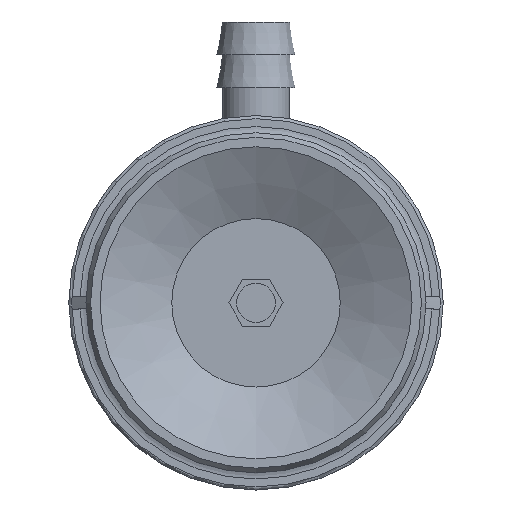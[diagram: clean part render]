
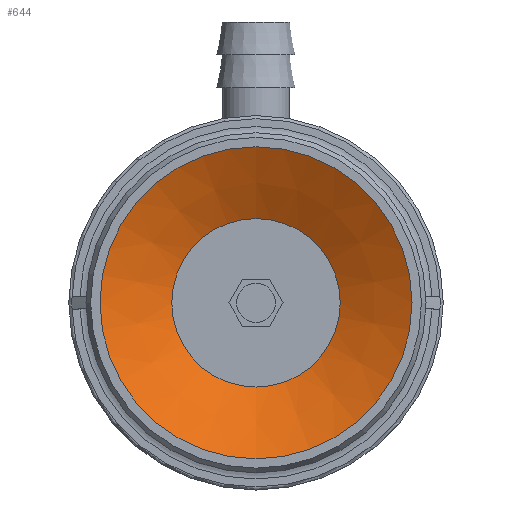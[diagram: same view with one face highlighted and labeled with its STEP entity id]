
A CAD part, front view. The second image highlights one B-rep face of the part: STEP entity #644.
In plain terms, the highlighted conical face has half-angle 61.631 degrees and reference radius 5.4 mm.
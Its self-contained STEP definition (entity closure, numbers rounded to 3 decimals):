
#644=ADVANCED_FACE('',(#984,#985),#986,.F.);
#984=FACE_BOUND('',#1355,.T.);
#985=FACE_OUTER_BOUND('',#1356,.T.);
#986=CONICAL_SURFACE('',#1357,5.4,1.076);
#1355=EDGE_LOOP('',(#2287));
#1356=EDGE_LOOP('',(#2288));
#1357=AXIS2_PLACEMENT_3D('',#2289,#2290,#2291);
#2287=ORIENTED_EDGE('',*,*,#2627,.F.);
#2288=ORIENTED_EDGE('',*,*,#2648,.T.);
#2289=CARTESIAN_POINT('',(0.0,2.484,0.0));
#2290=DIRECTION('',(-0.0,-1.0,0.));
#2291=DIRECTION('',(0.0,0.,-1.0));
#2627=EDGE_CURVE('',#3058,#3058,#3059,.T.);
#2648=EDGE_CURVE('',#3092,#3092,#3093,.T.);
#3058=VERTEX_POINT('',#3974);
#3059=CIRCLE('',#3975,5.4);
#3092=VERTEX_POINT('',#4012);
#3093=CIRCLE('',#4013,10.0);
#3974=CARTESIAN_POINT('',(0.0,2.484,-5.4));
#3975=AXIS2_PLACEMENT_3D('',#4433,#4434,#4435);
#4012=CARTESIAN_POINT('',(0.0,0.,-10.0));
#4013=AXIS2_PLACEMENT_3D('',#4488,#4489,#4490);
#4433=CARTESIAN_POINT('',(0.0,2.484,0.0));
#4434=DIRECTION('',(0.0,-1.0,0.));
#4435=DIRECTION('',(0.0,0.,-1.0));
#4488=CARTESIAN_POINT('',(0.0,0.0,0.0));
#4489=DIRECTION('',(0.0,-1.0,0.));
#4490=DIRECTION('',(0.0,0.,-1.0));
